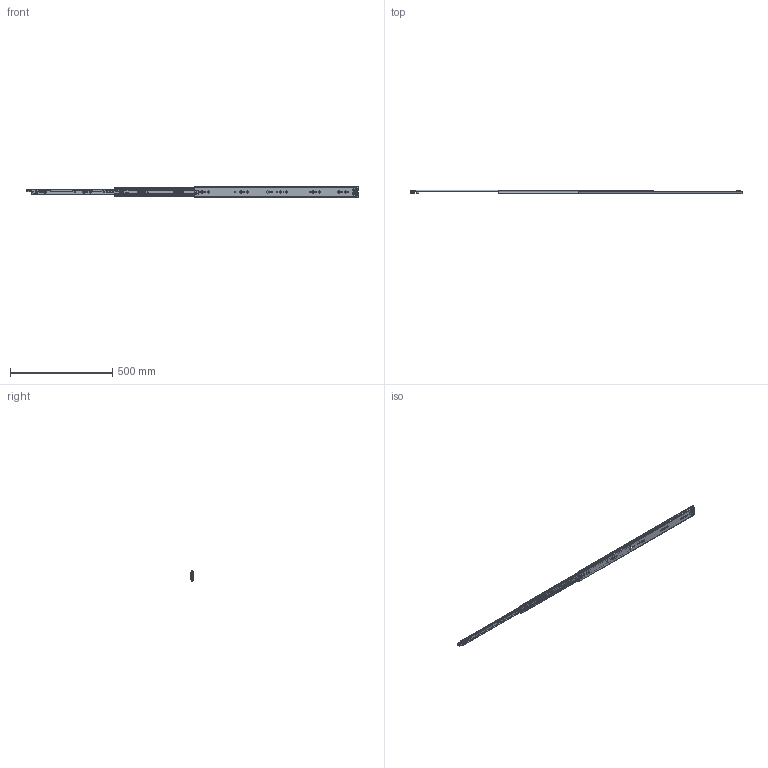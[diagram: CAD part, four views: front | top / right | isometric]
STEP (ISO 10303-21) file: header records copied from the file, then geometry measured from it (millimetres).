
FILE_DESCRIPTION((''),'2;1');
FILE_NAME('1053-3S-32YOU_ASM','2023-04-12T',('jishu015'),(''),'PRO/ENGINEER BY PARAMETRIC TECHNOLOGY CORPORATION, 2010280','PRO/ENGINEER BY PARAMETRIC TECHNOLOGY CORPORATION, 2010280','');
FILE_SCHEMA(('CONFIG_CONTROL_DESIGN'));
Products named in the file (20): 1053-02-18WAIKE___________; 1053WEIJIAO___________; 1053-3S-24WAIKE____________ASM; 1053ZHUTIAO-175___________; 53-5-6GANZHU___________; 1053ZHUTIAO-175MM____________ASM; 1053-02-18ZHONGGUI___________; ZHONGGUIPEIJIAN_________; ZHONGGUISUOKOU_________; 1053-02-18ZHONGGUI____________ASM; 1053XIAOZHUJIA-14GE___________; 1053XIAOZHUJIA-14GE____________ASM; 1053-02-18NEIGUI___________; DAOPIAN_______; PIAN_______; 1053-3SBANJI123______; JIAO-11______; 50XINSUOKOU11_____; 1053-02-18NEIGUI____________ASM; 1053-3S-32YOU_ASM
Assembly tree (89 placements, depth 3):
  1053-3S-32YOU_ASM
    1053-3S-24WAIKE____________ASM
      1053-02-18WAIKE___________
      1053WEIJIAO___________
    1053ZHUTIAO-175MM____________ASM  x2
      1053ZHUTIAO-175___________
      53-5-6GANZHU___________
    1053-02-18ZHONGGUI____________ASM
      1053-02-18ZHONGGUI___________
      ZHONGGUIPEIJIAN_________
      ZHONGGUISUOKOU_________
    1053XIAOZHUJIA-14GE____________ASM
      1053XIAOZHUJIA-14GE___________
      53-5-6GANZHU___________  x56
    1053-02-18NEIGUI____________ASM
      1053-02-18NEIGUI___________
      DAOPIAN_______
      PIAN_______
      1053-3SBANJI123______
      JIAO-11______
      50XINSUOKOU11_____
Bounding box: 1626.92 x 18.7 x 53 mm (x, y, z)
Volume: 304292.4 mm3; surface area: 352723.6 mm2
Topology: 99 solids, 99 shells, 2558 faces, 7409 edges, 4632 vertices
Faces by surface type: cylinder 1111, plane 1034, sphere 176, bspline 112, cone 86, extrusion 23, torus 16
Entity records: 83040 total; most frequent: CARTESIAN_POINT 20772, ORIENTED_EDGE 13238, DIRECTION 12773, EDGE_CURVE 6619, AXIS2_PLACEMENT_3D 4418, VERTEX_POINT 4280, VECTOR 3937, LINE 3914
